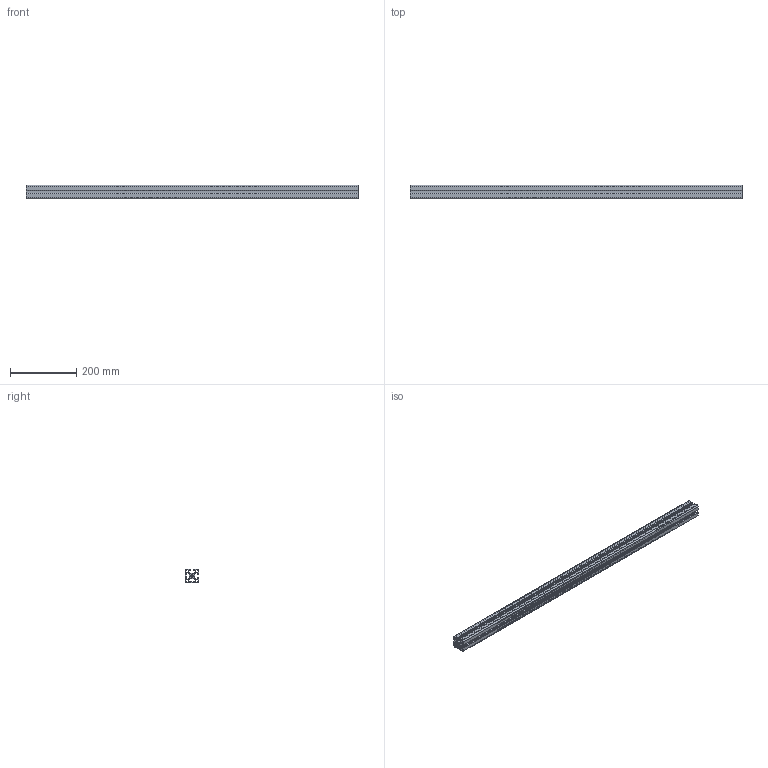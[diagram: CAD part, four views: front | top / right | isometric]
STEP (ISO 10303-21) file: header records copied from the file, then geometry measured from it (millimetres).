
FILE_DESCRIPTION (( 'STEP AP214' ), '1' );
FILE_NAME ('10400_PRO_40x40_L_2N_90.STEP', '2016-03-01T08:23:33', ( '' ), ( '' ), 'SwSTEP 2.0', 'SolidWorks 2015', '' );
FILE_SCHEMA (( 'AUTOMOTIVE_DESIGN' ));
Length unit declared in the file: millimetre
Products named in the file (1): 10400_PRO_40x40_L_2N_90
Bounding box: 1000 x 40 x 40 mm (x, y, z)
Volume: 691244 mm3; surface area: 487112.8 mm2
Topology: 1 solids, 1 shells, 156 faces, 462 edges, 308 vertices
Faces by surface type: cylinder 78, plane 78
Entity records: 5324 total; most frequent: DIRECTION 932, CARTESIAN_POINT 927, ORIENTED_EDGE 924, EDGE_CURVE 462, AXIS2_PLACEMENT_3D 313, VERTEX_POINT 308, VECTOR 306, LINE 306
